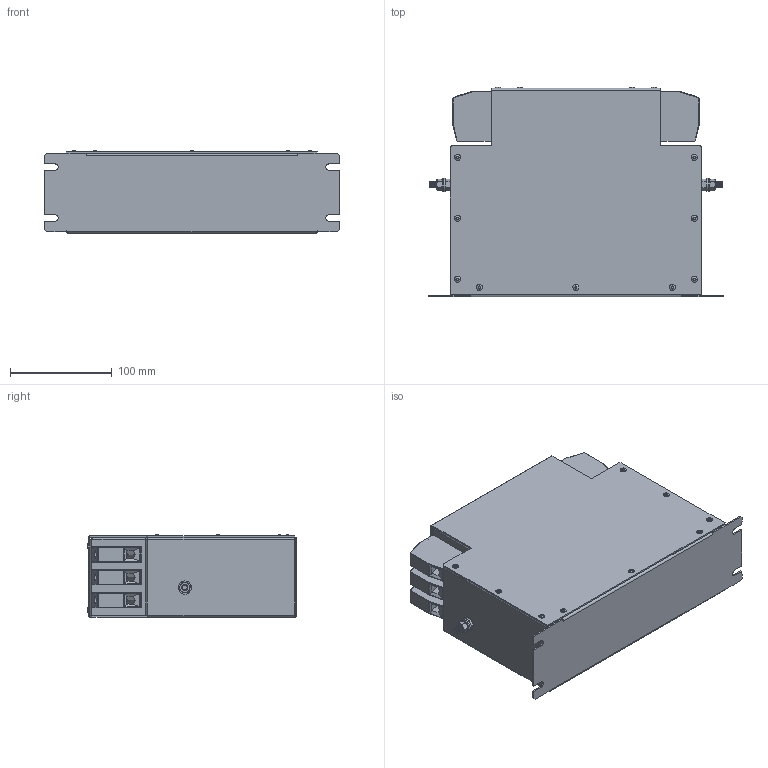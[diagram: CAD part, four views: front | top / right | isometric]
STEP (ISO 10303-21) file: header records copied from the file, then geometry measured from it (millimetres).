
FILE_DESCRIPTION (( 'STEP AP203' ), '1' );
FILE_NAME ('NF-CF-80 (F size).STEP', '2025-02-26T17:33:01', ( '' ), ( '' ), 'SwSTEP 2.0', 'SolidWorks 2017', '' );
FILE_SCHEMA (( 'CONFIG_CONTROL_DESIGN' ));
Length unit declared in the file: millimetre
Products named in the file (9): hex screw_am (dont use)_B18.6.7M - M6 x 1.0 x 16 Indented HHMS --16S; NF-CF-80 (F size); hex nut style 1_am_B18.2.4.1M - Hex nut, Style 1,  M6 x 1 --D-N; flat washer narrow_am_B18.22M - Plain washer, 6 mm, narrow; NF-CF-80 (F case); HDFK-25; NF-CF-80 (F lid); 3.5mm Rivet; M6x16 Earth post
Assembly tree (27 placements, depth 3):
  NF-CF-80 (F size)
    NF-CF-80 (F case)
    NF-CF-80 (F lid)
    3.5mm Rivet  x13
    HDFK-25  x6
    M6x16 Earth post  x2
      flat washer narrow_am_B18.22M - Plain washer, 6 mm, narrow
      hex nut style 1_am_B18.2.4.1M - Hex nut, Style 1,  M6 x 1 --D-N
      hex screw_am (dont use)_B18.6.7M - M6 x 1.0 x 16 Indented HHMS --16S
Bounding box: 290 x 206 x 81 mm (x, y, z)
Volume: 417081.4 mm3; surface area: 406710.5 mm2
Topology: 29 solids, 29 shells, 1157 faces, 2682 edges, 1636 vertices
Faces by surface type: plane 663, cylinder 258, cone 206, torus 26, bspline 4
Entity records: 16476 total; most frequent: CARTESIAN_POINT 2892, DIRECTION 2615, ORIENTED_EDGE 2446, EDGE_CURVE 1223, AXIS2_PLACEMENT_3D 907, LINE 801, VECTOR 801, VERTEX_POINT 744
